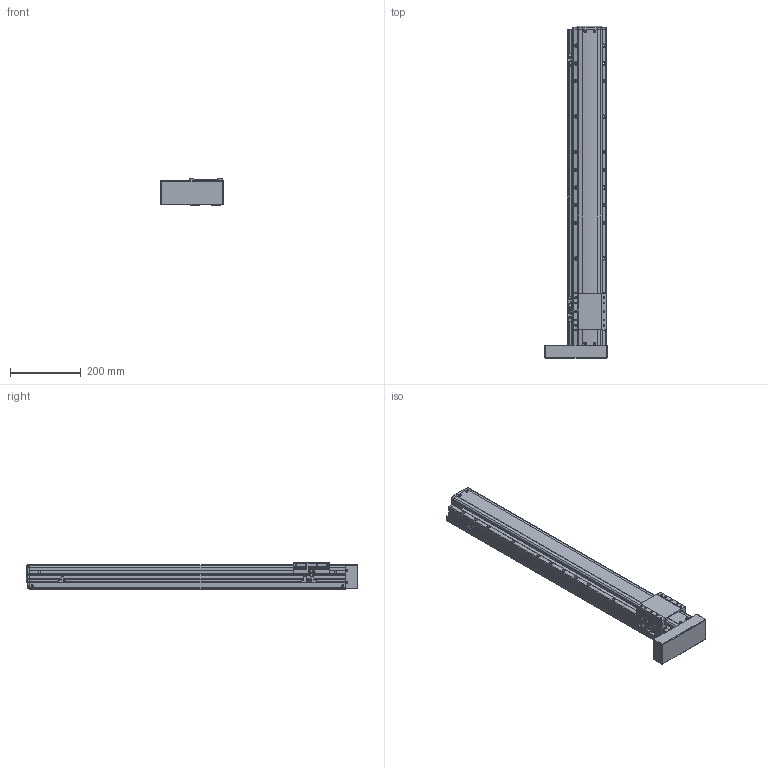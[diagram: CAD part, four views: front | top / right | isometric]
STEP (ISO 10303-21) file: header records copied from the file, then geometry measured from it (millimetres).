
FILE_DESCRIPTION(('STEP AP214'),'1');
FILE_NAME('Z:/Web/3D/PSA95/STP/PSA95-700 (3D)/PSA95ㅁㅁ-700PL+3SL.stp','2014-07-03T00:40:21',(' '),(' '),'Spatial InterOp 3D',' ',' ');
FILE_SCHEMA(('automotive_design'));
Length unit declared in the file: millimetre
Products named in the file (41): BASE; RRCV; 스크루 : Round - M4.0 x 10.0; 너트 : Square - M10.0 x 220.7419; RR1500; FRCV-090; 스크루 : Round - M4.0 x 6.0; SLBL-PA90; MOTOR PLATE COVER; 스크루 : Round - M3.0 x 6.0; EE-SX674; SBK-SX674-352; M3.0 x 6.0; SRL-16x17-380L; SGD-PA95; 스크루 : Round - M3.0 x 8.0
Bounding box: 179.13 x 936.5 x 74 mm (x, y, z)
Volume: 5351390.5 mm3; surface area: 635603.2 mm2
Topology: 41 solids, 41 shells, 2456 faces, 6554 edges, 4202 vertices
Faces by surface type: plane 1412, cylinder 715, cone 229, sphere 62, bspline 24, torus 14
Entity records: 98584 total; most frequent: CARTESIAN_POINT 16376, DIRECTION 13044, ORIENTED_EDGE 12820, EDGE_CURVE 6410, LINE 4356, VECTOR 4356, AXIS2_PLACEMENT_3D 4344, VERTEX_POINT 4202
